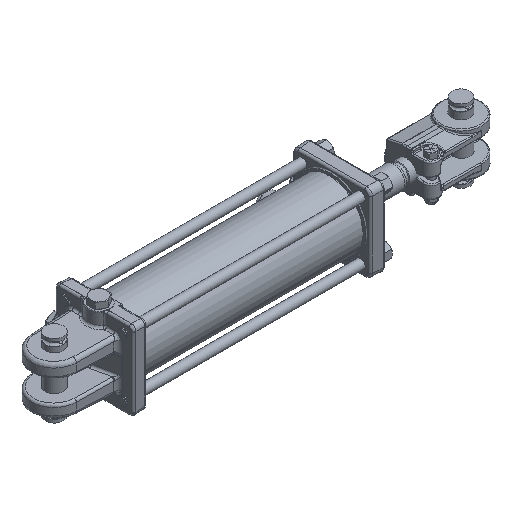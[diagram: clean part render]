
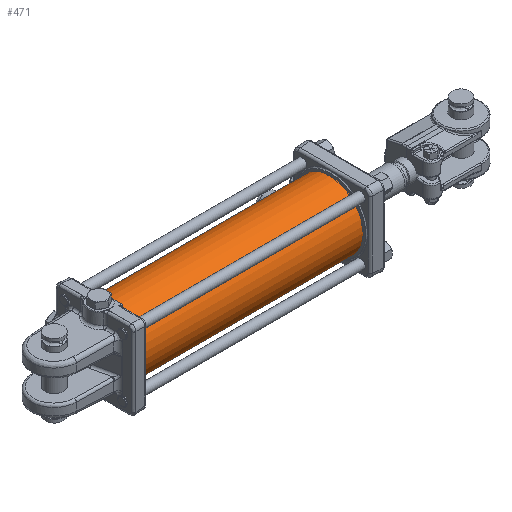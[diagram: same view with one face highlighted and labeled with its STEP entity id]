
A CAD part, isometric view. The second image highlights one B-rep face of the part: STEP entity #471.
In plain terms, the highlighted cylindrical face has radius 46.038 mm (diameter 92.075 mm), a full revolution.
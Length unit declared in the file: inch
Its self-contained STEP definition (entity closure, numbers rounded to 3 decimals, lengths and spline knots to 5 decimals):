
#210=CARTESIAN_POINT('',(-0.842,1.81168,0.0545));
#211=VERTEX_POINT('',#210);
#212=CARTESIAN_POINT('',(-0.842,1.81168,0.0545));
#213=CARTESIAN_POINT('',(-0.84884,1.81168,0.0545));
#214=CARTESIAN_POINT('',(-0.85614,1.81172,0.05313));
#215=CARTESIAN_POINT('',(-0.86957,1.81188,0.04757));
#216=CARTESIAN_POINT('',(-0.8757,1.81199,0.04338));
#217=CARTESIAN_POINT('',(-0.88538,1.81219,0.0337));
#218=CARTESIAN_POINT('',(-0.88957,1.8123,0.02757));
#219=CARTESIAN_POINT('',(-0.89513,1.81246,0.01414));
#220=CARTESIAN_POINT('',(-0.8965,1.8125,0.00684));
#221=CARTESIAN_POINT('',(-0.8965,1.8125,-0.00684));
#222=CARTESIAN_POINT('',(-0.89513,1.81246,-0.01414));
#223=CARTESIAN_POINT('',(-0.88957,1.8123,-0.02757));
#224=CARTESIAN_POINT('',(-0.88538,1.81219,-0.0337));
#225=CARTESIAN_POINT('',(-0.8757,1.81199,-0.04338));
#226=CARTESIAN_POINT('',(-0.86957,1.81188,-0.04757));
#227=CARTESIAN_POINT('',(-0.85614,1.81172,-0.05313));
#228=CARTESIAN_POINT('',(-0.84884,1.81168,-0.0545));
#229=CARTESIAN_POINT('',(-0.83516,1.81168,-0.0545));
#230=CARTESIAN_POINT('',(-0.82786,1.81172,-0.05313));
#231=CARTESIAN_POINT('',(-0.81443,1.81188,-0.04757));
#232=CARTESIAN_POINT('',(-0.8083,1.81199,-0.04338));
#233=CARTESIAN_POINT('',(-0.79862,1.81219,-0.0337));
#234=CARTESIAN_POINT('',(-0.79443,1.8123,-0.02757));
#235=CARTESIAN_POINT('',(-0.78887,1.81246,-0.01414));
#236=CARTESIAN_POINT('',(-0.7875,1.8125,-0.00684));
#237=CARTESIAN_POINT('',(-0.7875,1.8125,0.00684));
#238=CARTESIAN_POINT('',(-0.78887,1.81246,0.01414));
#239=CARTESIAN_POINT('',(-0.79443,1.8123,0.02757));
#240=CARTESIAN_POINT('',(-0.79862,1.81219,0.0337));
#241=CARTESIAN_POINT('',(-0.8083,1.81199,0.04338));
#242=CARTESIAN_POINT('',(-0.81443,1.81188,0.04757));
#243=CARTESIAN_POINT('',(-0.82786,1.81172,0.05313));
#244=CARTESIAN_POINT('',(-0.83516,1.81168,0.0545));
#245=CARTESIAN_POINT('',(-0.842,1.81168,0.0545));
#246=B_SPLINE_CURVE_WITH_KNOTS('',3,(#212,#213,#214,#215,#216,#217,#218,#219,#220,#221,#222,#223,#224,#225,#226,#227,#228,#229,#230,#231,#232,#233,#234,#235,#236,#237,#238,#239,#240,#241,#242,#243,#244,#245),.UNSPECIFIED.,.T.,.U.,(4,2,2,2,2,2,2,2,2,2,2,2,2,2,2,2,4),(0.0,0.05215,0.1043,0.15644,0.20859,0.26074,0.31289,0.36504,0.41718,0.46933,0.52148,0.57363,0.62578,0.67793,0.73007,0.78222,0.83437),.UNSPECIFIED.);
#247=EDGE_CURVE('',#211,#211,#246,.T.);
#298=CARTESIAN_POINT('',(-1.222,1.81223,0.031));
#299=VERTEX_POINT('',#298);
#300=CARTESIAN_POINT('',(-1.222,1.81223,0.031));
#301=CARTESIAN_POINT('',(-1.22589,1.81223,0.031));
#302=CARTESIAN_POINT('',(-1.23004,1.81225,0.03022));
#303=CARTESIAN_POINT('',(-1.23768,1.8123,0.02706));
#304=CARTESIAN_POINT('',(-1.24117,1.81233,0.02467));
#305=CARTESIAN_POINT('',(-1.24667,1.8124,0.01917));
#306=CARTESIAN_POINT('',(-1.24906,1.81244,0.01568));
#307=CARTESIAN_POINT('',(-1.25222,1.81249,0.00804));
#308=CARTESIAN_POINT('',(-1.253,1.8125,0.00389));
#309=CARTESIAN_POINT('',(-1.253,1.8125,-0.00389));
#310=CARTESIAN_POINT('',(-1.25222,1.81249,-0.00804));
#311=CARTESIAN_POINT('',(-1.24906,1.81244,-0.01568));
#312=CARTESIAN_POINT('',(-1.24667,1.8124,-0.01917));
#313=CARTESIAN_POINT('',(-1.24117,1.81233,-0.02467));
#314=CARTESIAN_POINT('',(-1.23768,1.8123,-0.02706));
#315=CARTESIAN_POINT('',(-1.23004,1.81225,-0.03022));
#316=CARTESIAN_POINT('',(-1.22589,1.81223,-0.031));
#317=CARTESIAN_POINT('',(-1.21811,1.81223,-0.031));
#318=CARTESIAN_POINT('',(-1.21396,1.81225,-0.03022));
#319=CARTESIAN_POINT('',(-1.20632,1.8123,-0.02706));
#320=CARTESIAN_POINT('',(-1.20283,1.81233,-0.02467));
#321=CARTESIAN_POINT('',(-1.19733,1.8124,-0.01917));
#322=CARTESIAN_POINT('',(-1.19494,1.81244,-0.01568));
#323=CARTESIAN_POINT('',(-1.19178,1.81249,-0.00804));
#324=CARTESIAN_POINT('',(-1.191,1.8125,-0.00389));
#325=CARTESIAN_POINT('',(-1.191,1.8125,0.00389));
#326=CARTESIAN_POINT('',(-1.19178,1.81249,0.00804));
#327=CARTESIAN_POINT('',(-1.19494,1.81244,0.01568));
#328=CARTESIAN_POINT('',(-1.19733,1.8124,0.01917));
#329=CARTESIAN_POINT('',(-1.20283,1.81233,0.02467));
#330=CARTESIAN_POINT('',(-1.20632,1.8123,0.02706));
#331=CARTESIAN_POINT('',(-1.21396,1.81225,0.03022));
#332=CARTESIAN_POINT('',(-1.21811,1.81223,0.031));
#333=CARTESIAN_POINT('',(-1.222,1.81223,0.031));
#334=B_SPLINE_CURVE_WITH_KNOTS('',3,(#300,#301,#302,#303,#304,#305,#306,#307,#308,#309,#310,#311,#312,#313,#314,#315,#316,#317,#318,#319,#320,#321,#322,#323,#324,#325,#326,#327,#328,#329,#330,#331,#332,#333),.UNSPECIFIED.,.T.,.U.,(4,2,2,2,2,2,2,2,2,2,2,2,2,2,2,2,4),(0.0,0.02966,0.05932,0.08898,0.11864,0.1483,0.17797,0.20763,0.23729,0.26695,0.29661,0.32627,0.35593,0.38559,0.41525,0.44491,0.47457),.UNSPECIFIED.);
#335=EDGE_CURVE('',#299,#299,#334,.T.);
#345=CARTESIAN_POINT('',(0.,1.8125,0.0));
#346=VERTEX_POINT('',#345);
#347=CARTESIAN_POINT('',(0.,0.0,0.0));
#348=DIRECTION('',(1.0,0.0,0.0));
#349=DIRECTION('',(0.0,1.0,0.0));
#350=AXIS2_PLACEMENT_3D('',#347,#348,#349);
#351=CIRCLE('',#350,1.8125);
#352=EDGE_CURVE('',#346,#346,#351,.T.);
#439=CARTESIAN_POINT('',(-12.09375,1.8125,0.0));
#440=VERTEX_POINT('',#439);
#441=CARTESIAN_POINT('',(-12.09375,0.0,0.0));
#442=DIRECTION('',(1.0,0.0,0.0));
#443=DIRECTION('',(0.0,1.0,0.0));
#444=AXIS2_PLACEMENT_3D('',#441,#442,#443);
#445=CIRCLE('',#444,1.8125);
#446=EDGE_CURVE('',#440,#440,#445,.T.);
#454=CARTESIAN_POINT('',(-6.04688,0.0,0.0));
#455=DIRECTION('',(1.0,0.0,0.0));
#456=DIRECTION('',(0.0,1.0,0.0));
#457=AXIS2_PLACEMENT_3D('',#454,#455,#456);
#458=CYLINDRICAL_SURFACE('',#457,1.8125);
#459=ORIENTED_EDGE('',*,*,#352,.F.);
#460=EDGE_LOOP('',(#459));
#461=FACE_OUTER_BOUND('',#460,.T.);
#462=ORIENTED_EDGE('',*,*,#247,.T.);
#463=EDGE_LOOP('',(#462));
#464=FACE_BOUND('',#463,.T.);
#465=ORIENTED_EDGE('',*,*,#335,.T.);
#466=EDGE_LOOP('',(#465));
#467=FACE_BOUND('',#466,.T.);
#468=ORIENTED_EDGE('',*,*,#446,.T.);
#469=EDGE_LOOP('',(#468));
#470=FACE_BOUND('',#469,.T.);
#471=ADVANCED_FACE('',(#461,#464,#467,#470),#458,.T.);
